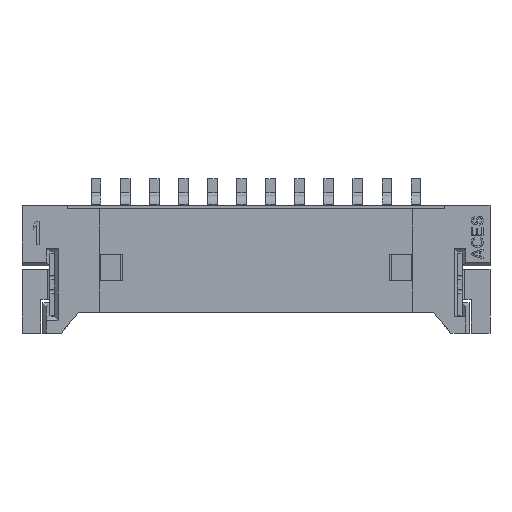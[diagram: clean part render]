
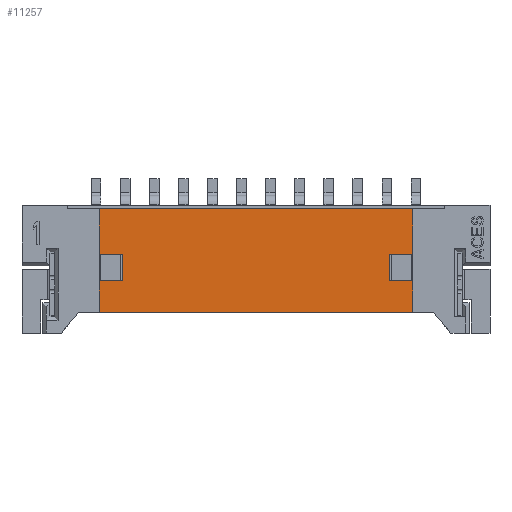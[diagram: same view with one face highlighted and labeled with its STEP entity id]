
A CAD part, top view. The second image highlights one B-rep face of the part: STEP entity #11257.
In plain terms, the highlighted planar face has unit normal (0, 0, 1).
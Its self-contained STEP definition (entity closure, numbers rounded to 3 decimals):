
#453=DIRECTION('',(0.,-1.,0.));
#454=VECTOR('',#453,1.95);
#455=CARTESIAN_POINT('',(3.325,5.35,0.048));
#456=LINE('',#455,#454);
#473=DIRECTION('',(1.,0.,0.));
#474=VECTOR('',#473,1.);
#475=CARTESIAN_POINT('',(15.825,2.25,0.048));
#476=LINE('',#475,#474);
#477=DIRECTION('',(0.,-1.,0.));
#478=VECTOR('',#477,1.35);
#479=CARTESIAN_POINT('',(16.825,2.25,0.048));
#480=LINE('',#479,#478);
#481=DIRECTION('',(-1.,0.,0.));
#482=VECTOR('',#481,13.5);
#483=CARTESIAN_POINT('',(16.825,0.9,0.048));
#484=LINE('',#483,#482);
#485=DIRECTION('',(1.,0.,0.));
#486=VECTOR('',#485,1.);
#487=CARTESIAN_POINT('',(3.325,2.25,0.048));
#488=LINE('',#487,#486);
#489=DIRECTION('',(0.,1.,0.));
#490=VECTOR('',#489,1.15);
#491=CARTESIAN_POINT('',(4.325,2.25,0.048));
#492=LINE('',#491,#490);
#493=DIRECTION('',(-1.,0.,0.));
#494=VECTOR('',#493,1.);
#495=CARTESIAN_POINT('',(4.325,3.4,0.048));
#496=LINE('',#495,#494);
#497=DIRECTION('',(1.,0.,0.));
#498=VECTOR('',#497,13.5);
#499=CARTESIAN_POINT('',(3.325,5.35,0.048));
#500=LINE('',#499,#498);
#501=DIRECTION('',(0.,-1.,0.));
#502=VECTOR('',#501,1.95);
#503=CARTESIAN_POINT('',(16.825,5.35,0.048));
#504=LINE('',#503,#502);
#505=DIRECTION('',(-1.,0.,0.));
#506=VECTOR('',#505,1.);
#507=CARTESIAN_POINT('',(16.825,3.4,0.048));
#508=LINE('',#507,#506);
#509=DIRECTION('',(0.,-1.,0.));
#510=VECTOR('',#509,1.15);
#511=CARTESIAN_POINT('',(15.825,3.4,0.048));
#512=LINE('',#511,#510);
#533=DIRECTION('',(0.,-1.,0.));
#534=VECTOR('',#533,1.35);
#535=CARTESIAN_POINT('',(3.325,2.25,0.048));
#536=LINE('',#535,#534);
#8543=CARTESIAN_POINT('',(15.825,3.4,0.048));
#8544=VERTEX_POINT('',#8543);
#8545=CARTESIAN_POINT('',(16.825,3.4,0.048));
#8546=VERTEX_POINT('',#8545);
#8563=CARTESIAN_POINT('',(3.325,0.9,0.048));
#8564=VERTEX_POINT('',#8563);
#8565=CARTESIAN_POINT('',(16.825,0.9,0.048));
#8566=VERTEX_POINT('',#8565);
#8609=CARTESIAN_POINT('',(4.325,2.25,0.048));
#8610=VERTEX_POINT('',#8609);
#8611=CARTESIAN_POINT('',(3.325,2.25,0.048));
#8612=VERTEX_POINT('',#8611);
#8613=CARTESIAN_POINT('',(4.325,3.4,0.048));
#8614=VERTEX_POINT('',#8613);
#8615=CARTESIAN_POINT('',(3.325,3.4,0.048));
#8616=VERTEX_POINT('',#8615);
#8617=CARTESIAN_POINT('',(3.325,5.35,0.048));
#8618=VERTEX_POINT('',#8617);
#8619=CARTESIAN_POINT('',(16.825,5.35,0.048));
#8620=VERTEX_POINT('',#8619);
#8625=CARTESIAN_POINT('',(15.825,2.25,0.048));
#8626=CARTESIAN_POINT('',(16.825,2.25,0.048));
#8627=VERTEX_POINT('',#8625);
#8628=VERTEX_POINT('',#8626);
#11234=CARTESIAN_POINT('',(10.075,3.125,0.048));
#11235=DIRECTION('',(0.,0.,1.));
#11236=DIRECTION('',(1.,0.,0.));
#11237=AXIS2_PLACEMENT_3D('',#11234,#11235,#11236);
#11238=PLANE('',#11237);
#11240=ORIENTED_EDGE('',*,*,#11239,.T.);
#11242=ORIENTED_EDGE('',*,*,#11241,.T.);
#11243=ORIENTED_EDGE('',*,*,#11059,.T.);
#11245=ORIENTED_EDGE('',*,*,#11244,.F.);
#11246=ORIENTED_EDGE('',*,*,#11148,.T.);
#11247=ORIENTED_EDGE('',*,*,#11164,.T.);
#11248=ORIENTED_EDGE('',*,*,#11181,.T.);
#11249=ORIENTED_EDGE('',*,*,#11195,.F.);
#11250=ORIENTED_EDGE('',*,*,#11208,.T.);
#11251=ORIENTED_EDGE('',*,*,#11227,.T.);
#11252=ORIENTED_EDGE('',*,*,#11009,.T.);
#11254=ORIENTED_EDGE('',*,*,#11253,.T.);
#11255=EDGE_LOOP('',(#11240,#11242,#11243,#11245,#11246,#11247,#11248,#11249,
#11250,#11251,#11252,#11254));
#11256=FACE_OUTER_BOUND('',#11255,.F.);
#11257=ADVANCED_FACE('',(#11256),#11238,.T.);
#11009=EDGE_CURVE('',#8546,#8544,#508,.T.);
#11059=EDGE_CURVE('',#8566,#8564,#484,.T.);
#11148=EDGE_CURVE('',#8612,#8610,#488,.T.);
#11164=EDGE_CURVE('',#8610,#8614,#492,.T.);
#11181=EDGE_CURVE('',#8614,#8616,#496,.T.);
#11195=EDGE_CURVE('',#8618,#8616,#456,.T.);
#11208=EDGE_CURVE('',#8618,#8620,#500,.T.);
#11227=EDGE_CURVE('',#8620,#8546,#504,.T.);
#11239=EDGE_CURVE('',#8627,#8628,#476,.T.);
#11241=EDGE_CURVE('',#8628,#8566,#480,.T.);
#11244=EDGE_CURVE('',#8612,#8564,#536,.T.);
#11253=EDGE_CURVE('',#8544,#8627,#512,.T.);
